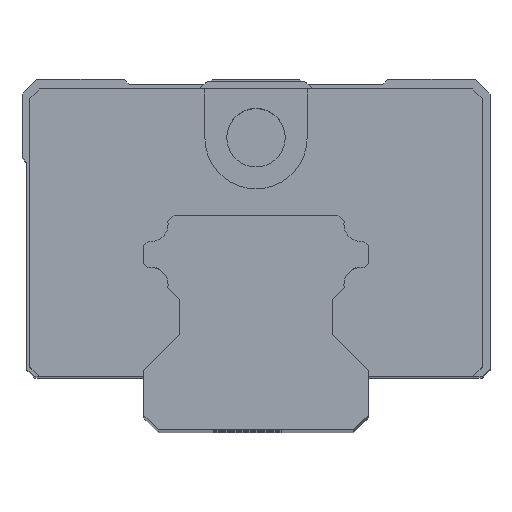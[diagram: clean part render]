
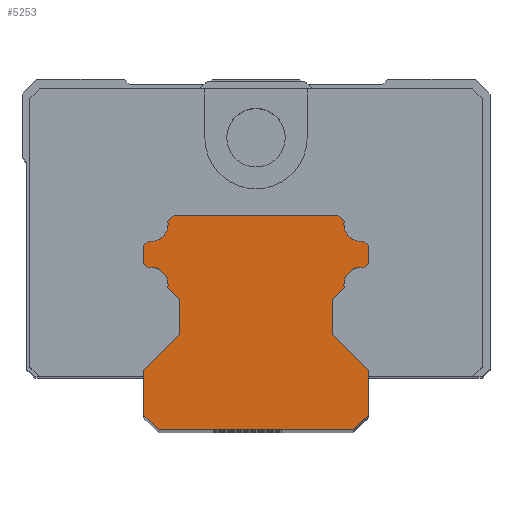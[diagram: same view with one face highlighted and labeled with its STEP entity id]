
A CAD part, top view. The second image highlights one B-rep face of the part: STEP entity #5253.
In plain terms, the highlighted planar face has unit normal (0, 0, 1).
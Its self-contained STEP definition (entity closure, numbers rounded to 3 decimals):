
#4554=CARTESIAN_POINT('',(10.767,-7.063,71.));
#4555=DIRECTION('',(0.,0.,1.));
#4556=DIRECTION('',(0.178,0.984,0.));
#4557=AXIS2_PLACEMENT_3D('',#4554,#4555,#4556);
#4559=CARTESIAN_POINT('',(10.767,-7.063,71.));
#4560=DIRECTION('',(0.,0.,1.));
#4561=DIRECTION('',(-1.,0.,0.));
#4562=AXIS2_PLACEMENT_3D('',#4559,#4560,#4561);
#4564=DIRECTION('',(-0.707,-0.707,0.));
#4565=VECTOR('',#4564,1.761);
#4566=CARTESIAN_POINT('',(9.045,-7.375,71.));
#4567=LINE('',#4566,#4565);
#4568=DIRECTION('',(0.,-1.,0.));
#4569=VECTOR('',#4568,3.581);
#4570=CARTESIAN_POINT('',(7.8,-8.62,71.));
#4571=LINE('',#4570,#4569);
#4572=DIRECTION('',(0.707,-0.707,0.));
#4573=VECTOR('',#4572,5.233);
#4574=CARTESIAN_POINT('',(7.8,-12.201,71.));
#4575=LINE('',#4574,#4573);
#4576=DIRECTION('',(0.,-1.,0.));
#4577=VECTOR('',#4576,4.599);
#4578=CARTESIAN_POINT('',(11.5,-15.901,71.));
#4579=LINE('',#4578,#4577);
#4580=DIRECTION('',(-0.707,-0.707,0.));
#4581=VECTOR('',#4580,2.121);
#4582=CARTESIAN_POINT('',(11.5,-20.5,71.));
#4583=LINE('',#4582,#4581);
#4584=DIRECTION('',(-1.,0.,0.));
#4585=VECTOR('',#4584,20.);
#4586=CARTESIAN_POINT('',(10.,-22.,71.));
#4587=LINE('',#4586,#4585);
#4588=DIRECTION('',(-0.707,0.707,0.));
#4589=VECTOR('',#4588,2.121);
#4590=CARTESIAN_POINT('',(-10.,-22.,71.));
#4591=LINE('',#4590,#4589);
#4592=DIRECTION('',(0.,1.,0.));
#4593=VECTOR('',#4592,4.599);
#4594=CARTESIAN_POINT('',(-11.5,-20.5,71.));
#4595=LINE('',#4594,#4593);
#4596=DIRECTION('',(0.707,0.707,0.));
#4597=VECTOR('',#4596,5.233);
#4598=CARTESIAN_POINT('',(-11.5,-15.901,71.));
#4599=LINE('',#4598,#4597);
#4600=DIRECTION('',(0.,1.,0.));
#4601=VECTOR('',#4600,3.581);
#4602=CARTESIAN_POINT('',(-7.8,-12.201,71.));
#4603=LINE('',#4602,#4601);
#4604=DIRECTION('',(-0.707,0.707,0.));
#4605=VECTOR('',#4604,1.761);
#4606=CARTESIAN_POINT('',(-7.8,-8.62,71.));
#4607=LINE('',#4606,#4605);
#4608=CARTESIAN_POINT('',(-10.767,-7.063,71.));
#4609=DIRECTION('',(0.,0.,1.));
#4610=DIRECTION('',(0.984,-0.178,0.));
#4611=AXIS2_PLACEMENT_3D('',#4608,#4609,#4610);
#4613=CARTESIAN_POINT('',(-10.767,-7.063,71.));
#4614=DIRECTION('',(0.,0.,1.));
#4615=DIRECTION('',(1.,0.,0.));
#4616=AXIS2_PLACEMENT_3D('',#4613,#4614,#4615);
#4618=DIRECTION('',(-0.707,0.707,0.));
#4619=VECTOR('',#4618,0.595);
#4620=CARTESIAN_POINT('',(-11.079,-5.341,71.));
#4621=LINE('',#4620,#4619);
#4622=DIRECTION('',(0.,1.,0.));
#4623=VECTOR('',#4622,1.829);
#4624=CARTESIAN_POINT('',(-11.5,-4.92,71.));
#4625=LINE('',#4624,#4623);
#4626=DIRECTION('',(0.707,0.707,0.));
#4627=VECTOR('',#4626,0.614);
#4628=CARTESIAN_POINT('',(-11.5,-3.091,71.));
#4629=LINE('',#4628,#4627);
#4630=CARTESIAN_POINT('',(-10.772,-0.932,71.));
#4631=DIRECTION('',(0.,0.,1.));
#4632=DIRECTION('',(-0.168,-0.986,0.));
#4633=AXIS2_PLACEMENT_3D('',#4630,#4631,#4632);
#4635=CARTESIAN_POINT('',(-10.772,-0.932,71.));
#4636=DIRECTION('',(0.,0.,1.));
#4637=DIRECTION('',(1.,0.,0.));
#4638=AXIS2_PLACEMENT_3D('',#4635,#4636,#4637);
#4640=DIRECTION('',(0.707,0.707,0.));
#4641=VECTOR('',#4640,0.903);
#4642=CARTESIAN_POINT('',(-9.047,-0.638,71.));
#4643=LINE('',#4642,#4641);
#4644=DIRECTION('',(1.,0.,0.));
#4645=VECTOR('',#4644,16.817);
#4646=CARTESIAN_POINT('',(-8.409,0.,71.));
#4647=LINE('',#4646,#4645);
#4648=DIRECTION('',(0.707,-0.707,0.));
#4649=VECTOR('',#4648,0.903);
#4650=CARTESIAN_POINT('',(8.409,0.,71.));
#4651=LINE('',#4650,#4649);
#4652=CARTESIAN_POINT('',(10.772,-0.932,71.));
#4653=DIRECTION('',(0.,0.,1.));
#4654=DIRECTION('',(-0.986,0.168,0.));
#4655=AXIS2_PLACEMENT_3D('',#4652,#4653,#4654);
#4657=CARTESIAN_POINT('',(10.772,-0.932,71.));
#4658=DIRECTION('',(0.,0.,1.));
#4659=DIRECTION('',(-1.,0.,0.));
#4660=AXIS2_PLACEMENT_3D('',#4657,#4658,#4659);
#4662=DIRECTION('',(0.707,-0.707,0.));
#4663=VECTOR('',#4662,0.614);
#4664=CARTESIAN_POINT('',(11.066,-2.657,71.));
#4665=LINE('',#4664,#4663);
#4666=DIRECTION('',(0.,-1.,0.));
#4667=VECTOR('',#4666,1.829);
#4668=CARTESIAN_POINT('',(11.5,-3.091,71.));
#4669=LINE('',#4668,#4667);
#4670=DIRECTION('',(-0.707,-0.707,0.));
#4671=VECTOR('',#4670,0.595);
#4672=CARTESIAN_POINT('',(11.5,-4.92,71.));
#4673=LINE('',#4672,#4671);
#5038=CARTESIAN_POINT('',(11.079,-5.341,71.));
#5039=CARTESIAN_POINT('',(9.017,-7.063,71.));
#5040=VERTEX_POINT('',#5038);
#5041=VERTEX_POINT('',#5039);
#5042=CARTESIAN_POINT('',(9.045,-7.375,71.));
#5043=VERTEX_POINT('',#5042);
#5044=CARTESIAN_POINT('',(7.8,-8.62,71.));
#5045=VERTEX_POINT('',#5044);
#5046=CARTESIAN_POINT('',(7.8,-12.201,71.));
#5047=VERTEX_POINT('',#5046);
#5048=CARTESIAN_POINT('',(11.5,-15.901,71.));
#5049=VERTEX_POINT('',#5048);
#5050=CARTESIAN_POINT('',(11.5,-20.5,71.));
#5051=VERTEX_POINT('',#5050);
#5052=CARTESIAN_POINT('',(10.,-22.,71.));
#5053=VERTEX_POINT('',#5052);
#5054=CARTESIAN_POINT('',(-10.,-22.,71.));
#5055=VERTEX_POINT('',#5054);
#5056=CARTESIAN_POINT('',(-11.5,-20.5,71.));
#5057=VERTEX_POINT('',#5056);
#5058=CARTESIAN_POINT('',(-11.5,-15.901,71.));
#5059=VERTEX_POINT('',#5058);
#5060=CARTESIAN_POINT('',(-7.8,-12.201,71.));
#5061=VERTEX_POINT('',#5060);
#5062=CARTESIAN_POINT('',(-7.8,-8.62,71.));
#5063=VERTEX_POINT('',#5062);
#5064=CARTESIAN_POINT('',(-9.045,-7.375,71.));
#5065=VERTEX_POINT('',#5064);
#5066=CARTESIAN_POINT('',(-9.017,-7.063,71.));
#5067=VERTEX_POINT('',#5066);
#5068=CARTESIAN_POINT('',(-11.079,-5.341,71.));
#5069=VERTEX_POINT('',#5068);
#5070=CARTESIAN_POINT('',(-11.5,-4.92,71.));
#5071=VERTEX_POINT('',#5070);
#5072=CARTESIAN_POINT('',(-11.5,-3.091,71.));
#5073=VERTEX_POINT('',#5072);
#5074=CARTESIAN_POINT('',(-11.066,-2.657,71.));
#5075=VERTEX_POINT('',#5074);
#5076=CARTESIAN_POINT('',(-9.022,-0.932,71.));
#5077=VERTEX_POINT('',#5076);
#5078=CARTESIAN_POINT('',(-9.047,-0.638,71.));
#5079=VERTEX_POINT('',#5078);
#5080=CARTESIAN_POINT('',(-8.409,0.,71.));
#5081=VERTEX_POINT('',#5080);
#5082=CARTESIAN_POINT('',(8.409,0.,71.));
#5083=VERTEX_POINT('',#5082);
#5084=CARTESIAN_POINT('',(9.047,-0.638,71.));
#5085=VERTEX_POINT('',#5084);
#5086=CARTESIAN_POINT('',(9.022,-0.932,71.));
#5087=VERTEX_POINT('',#5086);
#5088=CARTESIAN_POINT('',(11.066,-2.657,71.));
#5089=VERTEX_POINT('',#5088);
#5090=CARTESIAN_POINT('',(11.5,-3.091,71.));
#5091=VERTEX_POINT('',#5090);
#5092=CARTESIAN_POINT('',(11.5,-4.92,71.));
#5093=VERTEX_POINT('',#5092);
#5190=CARTESIAN_POINT('',(5.,17.5,71.));
#5191=DIRECTION('',(0.,0.,1.));
#5192=DIRECTION('',(1.,0.,0.));
#5193=AXIS2_PLACEMENT_3D('',#5190,#5191,#5192);
#5194=PLANE('',#5193);
#5196=ORIENTED_EDGE('',*,*,#5195,.T.);
#5198=ORIENTED_EDGE('',*,*,#5197,.T.);
#5200=ORIENTED_EDGE('',*,*,#5199,.T.);
#5202=ORIENTED_EDGE('',*,*,#5201,.T.);
#5204=ORIENTED_EDGE('',*,*,#5203,.T.);
#5206=ORIENTED_EDGE('',*,*,#5205,.T.);
#5208=ORIENTED_EDGE('',*,*,#5207,.T.);
#5210=ORIENTED_EDGE('',*,*,#5209,.T.);
#5212=ORIENTED_EDGE('',*,*,#5211,.T.);
#5214=ORIENTED_EDGE('',*,*,#5213,.T.);
#5216=ORIENTED_EDGE('',*,*,#5215,.T.);
#5218=ORIENTED_EDGE('',*,*,#5217,.T.);
#5220=ORIENTED_EDGE('',*,*,#5219,.T.);
#5222=ORIENTED_EDGE('',*,*,#5221,.T.);
#5224=ORIENTED_EDGE('',*,*,#5223,.T.);
#5226=ORIENTED_EDGE('',*,*,#5225,.T.);
#5228=ORIENTED_EDGE('',*,*,#5227,.T.);
#5230=ORIENTED_EDGE('',*,*,#5229,.T.);
#5232=ORIENTED_EDGE('',*,*,#5231,.T.);
#5234=ORIENTED_EDGE('',*,*,#5233,.T.);
#5236=ORIENTED_EDGE('',*,*,#5235,.T.);
#5238=ORIENTED_EDGE('',*,*,#5237,.T.);
#5240=ORIENTED_EDGE('',*,*,#5239,.T.);
#5242=ORIENTED_EDGE('',*,*,#5241,.T.);
#5244=ORIENTED_EDGE('',*,*,#5243,.T.);
#5246=ORIENTED_EDGE('',*,*,#5245,.T.);
#5248=ORIENTED_EDGE('',*,*,#5247,.T.);
#5250=ORIENTED_EDGE('',*,*,#5249,.T.);
#5251=EDGE_LOOP('',(#5196,#5198,#5200,#5202,#5204,#5206,#5208,#5210,#5212,#5214,
#5216,#5218,#5220,#5222,#5224,#5226,#5228,#5230,#5232,#5234,#5236,#5238,#5240,
#5242,#5244,#5246,#5248,#5250));
#5252=FACE_OUTER_BOUND('',#5251,.F.);
#5253=ADVANCED_FACE('',(#5252),#5194,.T.);
#4558=CIRCLE('',#4557,1.75);
#4563=CIRCLE('',#4562,1.75);
#4612=CIRCLE('',#4611,1.75);
#4617=CIRCLE('',#4616,1.75);
#4634=CIRCLE('',#4633,1.75);
#4639=CIRCLE('',#4638,1.75);
#4656=CIRCLE('',#4655,1.75);
#4661=CIRCLE('',#4660,1.75);
#5195=EDGE_CURVE('',#5040,#5041,#4558,.T.);
#5197=EDGE_CURVE('',#5041,#5043,#4563,.T.);
#5199=EDGE_CURVE('',#5043,#5045,#4567,.T.);
#5201=EDGE_CURVE('',#5045,#5047,#4571,.T.);
#5203=EDGE_CURVE('',#5047,#5049,#4575,.T.);
#5205=EDGE_CURVE('',#5049,#5051,#4579,.T.);
#5207=EDGE_CURVE('',#5051,#5053,#4583,.T.);
#5209=EDGE_CURVE('',#5053,#5055,#4587,.T.);
#5211=EDGE_CURVE('',#5055,#5057,#4591,.T.);
#5213=EDGE_CURVE('',#5057,#5059,#4595,.T.);
#5215=EDGE_CURVE('',#5059,#5061,#4599,.T.);
#5217=EDGE_CURVE('',#5061,#5063,#4603,.T.);
#5219=EDGE_CURVE('',#5063,#5065,#4607,.T.);
#5221=EDGE_CURVE('',#5065,#5067,#4612,.T.);
#5223=EDGE_CURVE('',#5067,#5069,#4617,.T.);
#5225=EDGE_CURVE('',#5069,#5071,#4621,.T.);
#5227=EDGE_CURVE('',#5071,#5073,#4625,.T.);
#5229=EDGE_CURVE('',#5073,#5075,#4629,.T.);
#5231=EDGE_CURVE('',#5075,#5077,#4634,.T.);
#5233=EDGE_CURVE('',#5077,#5079,#4639,.T.);
#5235=EDGE_CURVE('',#5079,#5081,#4643,.T.);
#5237=EDGE_CURVE('',#5081,#5083,#4647,.T.);
#5239=EDGE_CURVE('',#5083,#5085,#4651,.T.);
#5241=EDGE_CURVE('',#5085,#5087,#4656,.T.);
#5243=EDGE_CURVE('',#5087,#5089,#4661,.T.);
#5245=EDGE_CURVE('',#5089,#5091,#4665,.T.);
#5247=EDGE_CURVE('',#5091,#5093,#4669,.T.);
#5249=EDGE_CURVE('',#5093,#5040,#4673,.T.);
